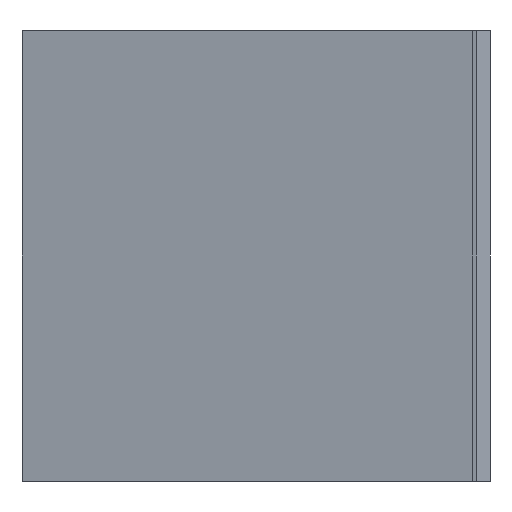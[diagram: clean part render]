
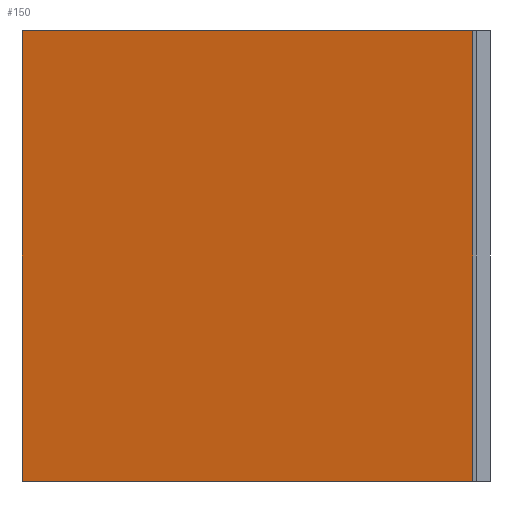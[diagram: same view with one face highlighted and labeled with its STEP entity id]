
A CAD part, left-side view. The second image highlights one B-rep face of the part: STEP entity #150.
In plain terms, the highlighted planar face has unit normal (0.978, -0.207, 0).
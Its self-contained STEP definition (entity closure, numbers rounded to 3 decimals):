
#98=CARTESIAN_POINT('Vertex',(20.,0.,0.)) ;
#101=CARTESIAN_POINT('Line Origine',(20.,0.,66.)) ;
#105=CARTESIAN_POINT('Vertex',(20.,0.,132.)) ;
#120=CARTESIAN_POINT('Axis2P3D Location',(20.,0.,0.)) ;
#125=CARTESIAN_POINT('Line Origine',(34.,66.,0.)) ;
#129=CARTESIAN_POINT('Vertex',(48.,132.,0.)) ;
#132=CARTESIAN_POINT('Line Origine',(48.,132.,66.)) ;
#136=CARTESIAN_POINT('Vertex',(48.,132.,132.)) ;
#139=CARTESIAN_POINT('Line Origine',(34.,66.,132.)) ;
#102=DIRECTION('Vector Direction',(0.,0.,1.)) ;
#121=DIRECTION('Axis2P3D Direction',(0.978,-0.208,0.)) ;
#122=DIRECTION('Axis2P3D XDirection',(0.208,0.978,0.)) ;
#126=DIRECTION('Vector Direction',(0.208,0.978,0.)) ;
#133=DIRECTION('Vector Direction',(0.,0.,1.)) ;
#140=DIRECTION('Vector Direction',(0.208,0.978,0.)) ;
#123=AXIS2_PLACEMENT_3D('Plane Axis2P3D',#120,#121,#122) ;
#145=ORIENTED_EDGE('',*,*,#107,.F.) ;
#146=ORIENTED_EDGE('',*,*,#131,.T.) ;
#147=ORIENTED_EDGE('',*,*,#138,.T.) ;
#148=ORIENTED_EDGE('',*,*,#143,.F.) ;
#103=VECTOR('Line Direction',#102,1.) ;
#127=VECTOR('Line Direction',#126,1.) ;
#134=VECTOR('Line Direction',#133,1.) ;
#141=VECTOR('Line Direction',#140,1.) ;
#150=ADVANCED_FACE('Extrude.1',(#149),#124,.T.) ;
#107=EDGE_CURVE('',#99,#106,#104,.T.) ;
#131=EDGE_CURVE('',#99,#130,#128,.T.) ;
#138=EDGE_CURVE('',#130,#137,#135,.T.) ;
#143=EDGE_CURVE('',#106,#137,#142,.T.) ;
#144=EDGE_LOOP('',(#145,#146,#147,#148)) ;
#149=FACE_OUTER_BOUND('',#144,.T.) ;
#104=LINE('Line',#101,#103) ;
#128=LINE('Line',#125,#127) ;
#135=LINE('Line',#132,#134) ;
#142=LINE('Line',#139,#141) ;
#124=PLANE('',#123) ;
#99=VERTEX_POINT('',#98) ;
#106=VERTEX_POINT('',#105) ;
#130=VERTEX_POINT('',#129) ;
#137=VERTEX_POINT('',#136) ;
